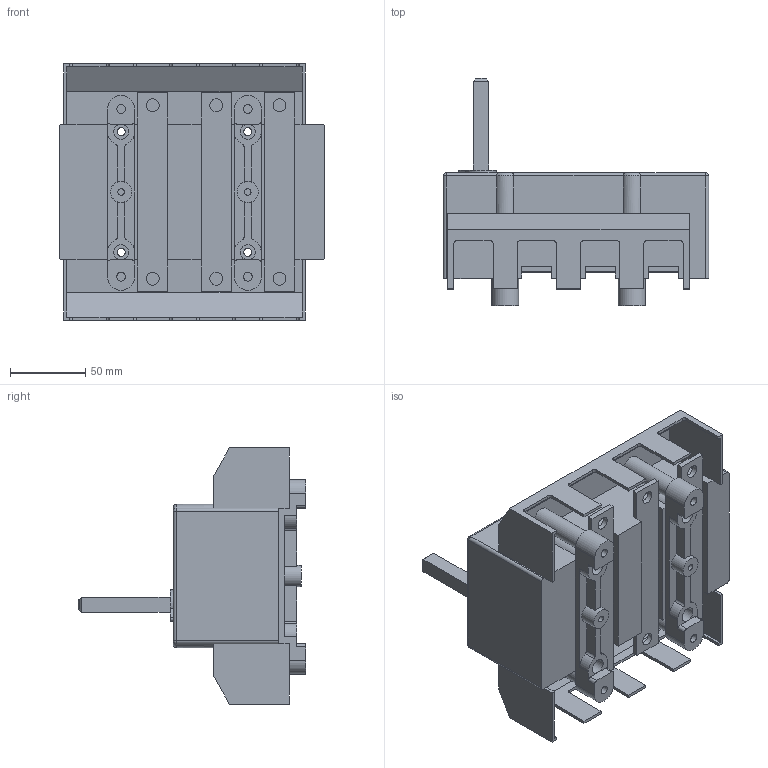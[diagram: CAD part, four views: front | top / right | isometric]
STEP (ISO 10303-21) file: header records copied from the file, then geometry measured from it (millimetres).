
FILE_DESCRIPTION(/* description */ (''),/* implementation_level */ '2;1');
FILE_NAME(/* name */ 'RA250 P3 z oslona zaciskow.stp',/* time_stamp */ '2021-08-18T07:46:33+02:00',/* author */ (''),/* organization */ (''),/* preprocessor_version */ 'ST-DEVELOPER v18.1',/* originating_system */ 'SIEMENS PLM Software NX 1965',/* authorisation */ '');
FILE_SCHEMA (('AUTOMOTIVE_DESIGN { 1 0 10303 214 3 1 1 1 }'));
Length unit declared in the file: millimetre
Products named in the file (1): RA250 P3 z oslona zaciskow_stp
Bounding box: 176 x 151 x 169.8 mm (x, y, z)
Volume: 1214879.4 mm3; surface area: 157923.3 mm2
Topology: 1 solids, 1 shells, 286 faces, 822 edges, 532 vertices
Faces by surface type: plane 170, cylinder 108, torus 4, sphere 4
Full cylindrical faces by diameter (mm): 4.3 x2, 5.3 x4, 5.8 x4, 8.5 x6, 10 x12, 13 x4, 14 x2
Entity records: 9068 total; most frequent: CARTESIAN_POINT 1599, DIRECTION 1554, ORIENTED_EDGE 1516, EDGE_CURVE 758, LINE 520, VECTOR 520, AXIS2_PLACEMENT_3D 517, VERTEX_POINT 506
